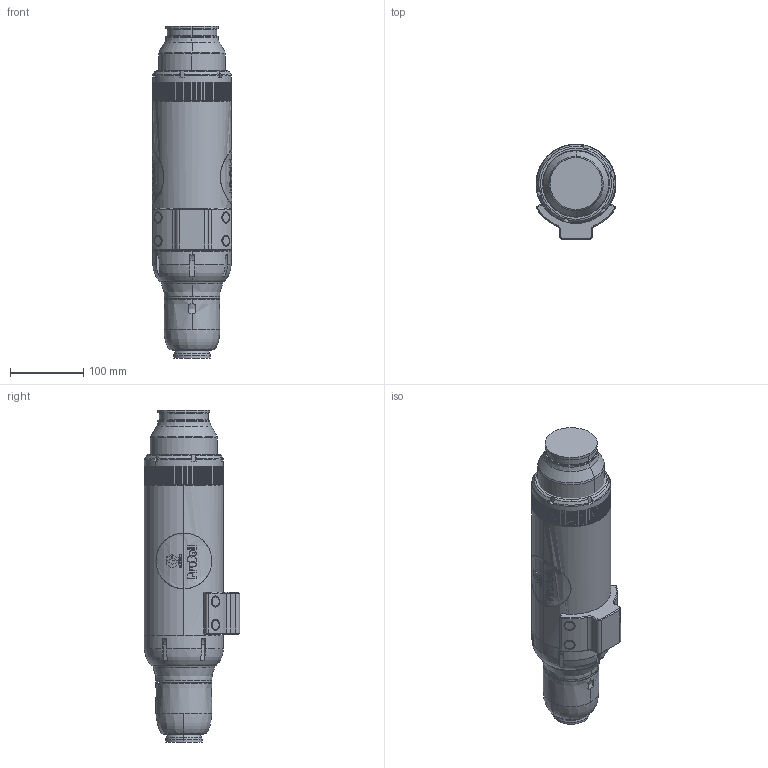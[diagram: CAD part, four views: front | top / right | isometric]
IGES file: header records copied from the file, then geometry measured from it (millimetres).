
Start section:  PTC IGES file: r5a148-en-m.igs
Global section: file name: r5a148-en-m.igs; native system: Creo Parametric by PTC Inc.; preprocessor: 2021072; author: qtmwp1; organization: Unknown; date: 20231107.144448; units: inch
Bounding box: 109.03 x 130.18 x 453.73 mm (x, y, z)
Surface area: 203162.8 mm2 (no closed solid volume)
Topology: 0 solids, 0 shells, 546 faces, 3358 edges, 3358 vertices
Faces by surface type: bspline 307, revolution 224, extrusion 15
